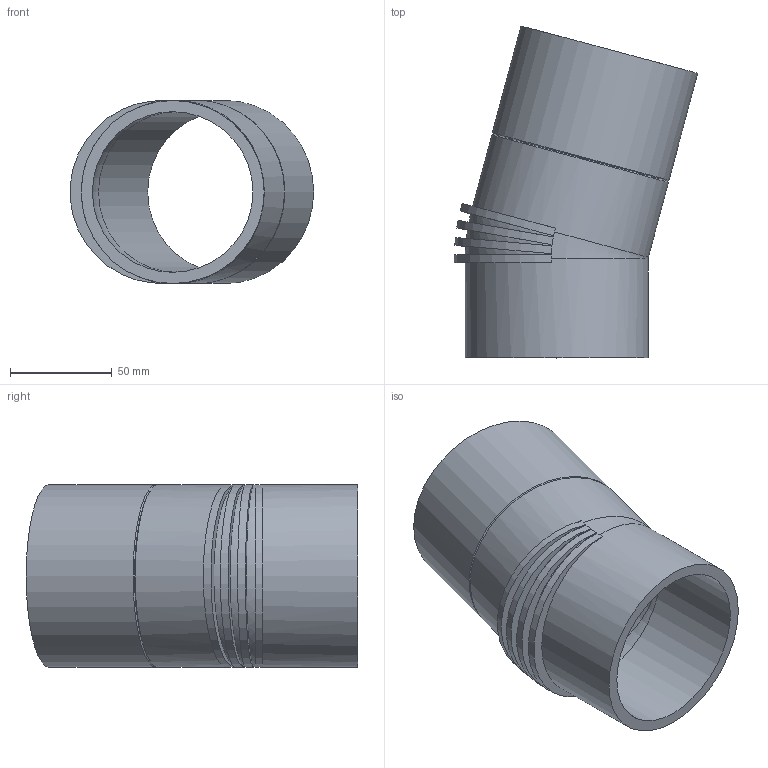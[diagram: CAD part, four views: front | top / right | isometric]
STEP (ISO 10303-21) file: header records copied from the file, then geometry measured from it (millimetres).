
FILE_DESCRIPTION(/* description */ (''),/* implementation_level */ '2;1');
FILE_NAME(/* name */ 'Z:\Geberit\Export\NewStep\Bogen_Ipart\stp\308150.stp',/* time_stamp */ '2014-04-03T16:41:45+02:00',/* author */ ('Marco'),/* organization */ (''),/* preprocessor_version */ 'ST-DEVELOPER v15.2',/* originating_system */ 'Autodesk Inventor 2014',/* authorisation */ '');
FILE_SCHEMA (('AUTOMOTIVE_DESIGN { 1 0 10303 214 3 1 1 }'));
Length unit declared in the file: millimetre
Products named in the file (1): 308150
Bounding box: 119.68 x 163.24 x 90 mm (x, y, z)
Volume: 233698.4 mm3; surface area: 89603.9 mm2
Topology: 1 solids, 1 shells, 23 faces, 60 edges, 39 vertices
Faces by surface type: plane 10, cylinder 9, cone 2, torus 2
Full cylindrical faces by diameter (mm): 79 x2, 90 x3
Entity records: 864 total; most frequent: CARTESIAN_POINT 340, DIRECTION 94, ORIENTED_EDGE 90, EDGE_CURVE 45, AXIS2_PLACEMENT_3D 45, EDGE_LOOP 36, VERTEX_POINT 35, STYLED_ITEM 24
